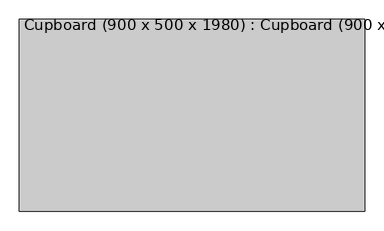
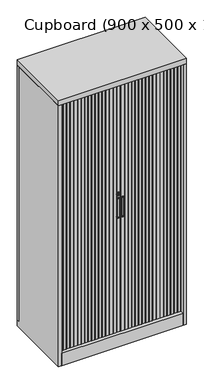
"""IFC4 building model written with IfcOpenShell, lengths in millimetres: furniture geometry, Cupboard (900 x 500 x 1980) : Cupboard (900 x 500 x 1980)."""

from ifc_helpers import new_model, si_unit, point, frame, frame_2d, origin, origin_with_axes, place, context, project, spatial, polyline, circle_curve, ellipse_curve, trimmed, segment, composite_curve, outline, extrude, faceted_brep, source, transform, mapped, element, save
from ifc_brep_helpers import plane_surface, cylinder_surface, revolved_surface, advanced_brep


def cupboard_900_x_500_x_1980_cupboard_900_x_500_x_1980_3b477151(model_context):
    return source(origin(), model_context, "Body", "SolidModel", [
        advanced_brep(
        [(26.5273848, -229.0, 951.9022034), (26.5273848, -229.0, 1078.0527572), (4.5273848, -229.0, 1078.0527572), (4.5273848, -229.0, 951.9022034), (6.5273848, -229.0, 952.046184), (6.5273848, -229.0, 1078.0415606), (24.5273848, -229.0, 1078.0415606), (24.5273848, -229.0, 952.046184), (3.5273848, -228.0, 951.9022034), (3.5273848, -226.0, 951.9022034), (27.5273848, -226.0, 951.9022034), (27.5273848, -228.0, 951.9022034), (27.5273848, -220.0, 951.9022034), (27.5273848, -220.0, 1078.0527572), (27.5273848, -226.0, 1078.0527572), (27.5273848, -228.0, 1078.0527572), (3.5273848, -226.0, 1078.0527572), (3.5273848, -228.0, 1078.0527572), (3.5273848, -220.0, 1078.0527572), (3.5273848, -220.0, 951.9022034), (7.5273848, -228.0, 1078.0415606), (7.5273848, -226.0, 1078.0415606), (23.5273848, -226.0, 1078.0415606), (23.5273848, -228.0, 1078.0415606), (23.5273848, -226.0, 952.046184), (23.5273848, -228.0, 952.046184), (7.5273848, -226.0, 952.046184), (7.5273848, -228.0, 952.046184)],
        [
            (0, 1),
            (1, 2, circle_curve(frame((15.5273848, -229.0, 1078.0527572), z_axis=(0.0, -1.0, 0.0), x_axis=(-1.0, 0.0, 0.0)), 11.0)),
            (2, 3),
            (3, 0, circle_curve(frame((15.5273848, -229.0, 951.9022034), z_axis=(0.0, -1.0, 0.0), x_axis=(1.0, 0.0, 0.0)), 11.0)),
            (4, 5),
            (5, 6, circle_curve(frame((15.5273848, -229.0, 1078.0415606), z_axis=(0.0, 1.0, 0.0), x_axis=(1.0, 0.0, 0.0)), 9.0)),
            (6, 7),
            (7, 4, circle_curve(frame((15.5273848, -229.0, 952.046184), z_axis=(0.0, 1.0, 0.0), x_axis=(-1.0, 0.0, 0.0)), 9.0)),
            (8, 9),
            (9, 10, circle_curve(frame((15.5273848, -226.0, 951.9022034), z_axis=(0.0, -1.0, 0.0), x_axis=(1.0, 0.0, 0.0)), 12.0)),
            (10, 11),
            (11, 8, circle_curve(frame((15.5273848, -228.0, 951.9022034), z_axis=(0.0, 1.0, 0.0), x_axis=(1.0, 0.0, 0.0)), 12.0)),
            (10, 12),
            (12, 13),
            (13, 14),
            (14, 15),
            (15, 11),
            (14, 16, circle_curve(frame((15.5273848, -226.0, 1078.0527572), z_axis=(0.0, -1.0, 0.0), x_axis=(1.0, 0.0, 0.0)), 12.0)),
            (16, 17),
            (17, 15, circle_curve(frame((15.5273848, -228.0, 1078.0527572), z_axis=(0.0, 1.0, 0.0), x_axis=(1.0, 0.0, 0.0)), 12.0)),
            (8, 17),
            (16, 18),
            (18, 19),
            (19, 9),
            (20, 21),
            (21, 22, circle_curve(frame((15.5273848, -226.0, 1078.0415606), z_axis=(0.0, 1.0, 0.0), x_axis=(1.0, 0.0, 0.0)), 8.0)),
            (22, 23),
            (23, 20, circle_curve(frame((15.5273848, -228.0, 1078.0415606), z_axis=(0.0, -1.0, 0.0), x_axis=(1.0, 0.0, 0.0)), 8.0)),
            (22, 24),
            (24, 25),
            (25, 23),
            (24, 26, circle_curve(frame((15.5273848, -226.0, 952.046184), z_axis=(0.0, 1.0, 0.0), x_axis=(1.0, 0.0, 0.0)), 8.0)),
            (26, 27),
            (27, 25, circle_curve(frame((15.5273848, -228.0, 952.046184), z_axis=(0.0, -1.0, 0.0), x_axis=(1.0, 0.0, 0.0)), 8.0)),
            (20, 27),
            (26, 21),
            (4, 27, circle_curve(frame((6.5273848, -228.0, 952.046184), z_axis=(0.0, 0.0, 1.0), x_axis=(-1.0, 0.0, 0.0)), 1.0)),
            (20, 5, circle_curve(frame((6.5273848, -228.0, 1078.0415606), z_axis=(0.0, 0.0, -1.0), x_axis=(-1.0, 0.0, 0.0)), 1.0)),
            (7, 25, circle_curve(frame((24.5273848, -228.0, 952.046184), z_axis=(0.0, 0.0, -1.0), x_axis=(1.0, 0.0, 0.0)), 1.0)),
            (6, 23, circle_curve(frame((24.5273848, -228.0, 1078.0415606), z_axis=(0.0, 0.0, -1.0), x_axis=(1.0, 0.0, 0.0)), 1.0)),
            (0, 11, circle_curve(frame((26.5273848, -228.0, 951.9022034), z_axis=(0.0, 0.0, 1.0), x_axis=(1.0, 0.0, 0.0)), 1.0)),
            (15, 1, circle_curve(frame((26.5273848, -228.0, 1078.0527572), z_axis=(0.0, 0.0, -1.0), x_axis=(1.0, 0.0, 0.0)), 1.0)),
            (3, 8, circle_curve(frame((4.5273848, -228.0, 951.9022034), z_axis=(0.0, 0.0, -1.0), x_axis=(-1.0, 0.0, 0.0)), 1.0)),
            (2, 17, circle_curve(frame((4.5273848, -228.0, 1078.0527572), z_axis=(0.0, 0.0, -1.0), x_axis=(-1.0, 0.0, 0.0)), 1.0)),
            (18, 13, circle_curve(frame((15.5273848, -220.0, 1078.0527572), z_axis=(0.0, 1.0, 0.0), x_axis=(1.0, 0.0, 0.0)), 12.0)),
            (12, 19, circle_curve(frame((15.5273848, -220.0, 951.9022034), z_axis=(0.0, 1.0, 0.0), x_axis=(1.0, 0.0, 0.0)), 12.0)),
        ],
        [
            plane_surface(frame((27.5273848, -229.0, 951.9022034), z_axis=(0.0, -1.0, 0.0), x_axis=(0.0, 0.0, 1.0))),
            cylinder_surface(frame((15.5273848, -226.0, 951.9022034), z_axis=(0.0, -1.0, 0.0), x_axis=(1.0, 0.0, 0.0)), 12.0),
            plane_surface(frame((27.5273848, -229.0, 951.9022034), z_axis=(1.0, 0.0, 0.0), x_axis=(0.0, 1.0, 0.0))),
            cylinder_surface(frame((15.5273848, -226.0, 1078.0527572), z_axis=(0.0, -1.0, 0.0), x_axis=(1.0, 0.0, 0.0)), 12.0),
            plane_surface(frame((3.5273848, -229.0, 1078.0527572), z_axis=(-1.0, 0.0, 0.0), x_axis=(0.0, 1.0, 0.0))),
            revolved_surface(polyline([(23.5273848, -226.0, 1078.0415606), (23.5273848, -228.0, 1078.0415606)]), (15.5273848, -229.0, 1078.0415606), (0.0, 1.0, 0.0)),
            plane_surface(frame((23.5273848, -229.0, 1078.0415606), z_axis=(-1.0, 0.0, 0.0), x_axis=(0.0, 1.0, 0.0))),
            revolved_surface(polyline([(23.5273848, -226.0, 952.046184), (23.5273848, -228.0, 952.046184)]), (15.5273848, -229.0, 952.046184), (0.0, 1.0, 0.0)),
            plane_surface(frame((7.5273848, -229.0, 952.046184), z_axis=(1.0, 0.0, 0.0), x_axis=(0.0, 1.0, 0.0))),
            cylinder_surface(frame((6.5273848, -228.0, 1078.0415606), z_axis=(0.0, 0.0, -1.0), x_axis=(-1.0, 0.0, 0.0)), 1.0),
            revolved_surface(trimmed(ellipse_curve(frame((6.5273848, -228.0, 952.046184), z_axis=(0.0, 0.0, 1.0), x_axis=(-1.0, 0.0, 0.0)), 1.0, 1.0), [point((6.5273848, -229.0, 952.046184))], [point((7.5273848, -228.0, 952.046184))], True, "CARTESIAN"), (15.5273848, -229.0, 952.046184), (0.0, -1.0, 0.0)),
            cylinder_surface(frame((24.5273848, -228.0, 952.046184), z_axis=(0.0, 0.0, 1.0), x_axis=(1.0, 0.0, 0.0)), 1.0),
            revolved_surface(trimmed(ellipse_curve(frame((24.5273848, -228.0, 1078.0415606), z_axis=(0.0, 0.0, -1.0), x_axis=(1.0, 0.0, 0.0)), 1.0, 1.0), [point((24.5273848, -229.0, 1078.0415606))], [point((23.5273848, -228.0, 1078.0415606))], True, "CARTESIAN"), (15.5273848, -229.0, 1078.0415606), (0.0, -1.0, 0.0)),
            cylinder_surface(frame((26.5273848, -228.0, 1078.0527572), z_axis=(0.0, 0.0, -1.0), x_axis=(1.0, 0.0, 0.0)), 1.0),
            revolved_surface(trimmed(ellipse_curve(frame((26.5273848, -228.0, 951.9022034), z_axis=(0.0, 0.0, 1.0), x_axis=(1.0, 0.0, 0.0)), 1.0, 1.0), [point((26.5273848, -229.0, 951.9022034))], [point((27.5273848, -228.0, 951.9022034))], True, "CARTESIAN"), (15.5273848, -229.0, 951.9022034), (0.0, 1.0, 0.0)),
            cylinder_surface(frame((4.5273848, -228.0, 951.9022034), z_axis=(0.0, 0.0, 1.0), x_axis=(-1.0, 0.0, 0.0)), 1.0),
            revolved_surface(trimmed(ellipse_curve(frame((4.5273848, -228.0, 1078.0527572), z_axis=(0.0, 0.0, -1.0), x_axis=(-1.0, 0.0, 0.0)), 1.0, 1.0), [point((4.5273848, -229.0, 1078.0527572))], [point((3.5273848, -228.0, 1078.0527572))], True, "CARTESIAN"), (15.5273848, -229.0, 1078.0527572), (0.0, 1.0, 0.0)),
            plane_surface(frame((27.5273848, -226.0, 951.9022034), z_axis=(0.0, -1.0, 0.0), x_axis=(0.0, 0.0, 1.0))),
            plane_surface(frame((27.5273848, -220.0, 951.9022034), z_axis=(0.0, 1.0, 0.0), x_axis=(0.0, 0.0, -1.0))),
            cylinder_surface(frame((15.5273848, -220.0, 951.9022034), z_axis=(0.0, -1.0, 0.0), x_axis=(1.0, 0.0, 0.0)), 12.0),
            cylinder_surface(frame((15.5273848, -220.0, 1078.0527572), z_axis=(0.0, -1.0, 0.0), x_axis=(1.0, 0.0, 0.0)), 12.0),
        ],
        [
            (0, [[1, 2, 3, 4], [5, 6, 7, 8]]),
            (1, [[9, 10, 11, 12]]),
            (2, [[-11, 13, 14, 15, 16, 17]]),
            (3, [[-16, 18, 19, 20]]),
            (4, [[-9, 21, -19, 22, 23, 24]]),
            (5, [[25, 26, 27, 28]]),
            (6, [[-27, 29, 30, 31]]),
            (7, [[-30, 32, 33, 34]]),
            (8, [[-25, 35, -33, 36]]),
            (9, [[37, -35, 38, -5]]),
            (10, [[-37, -8, 39, -34]]),
            (11, [[-39, -7, 40, -31]]),
            (12, [[-38, -28, -40, -6]]),
            (13, [[41, -17, 42, -1]]),
            (14, [[-41, -4, 43, -12]]),
            (15, [[-43, -3, 44, -21]]),
            (16, [[-42, -20, -44, -2]]),
            (17, [[-26, -36, -32, -29]]),
            (18, [[-23, 45, -14, 46]]),
            (19, [[-46, -13, -10, -24]]),
            (20, [[-45, -22, -18, -15]]),
        ],
    ),
        advanced_brep(
        [(-26.8154748, -229.0, 1119.9505671), (-3.7101479, -229.0, 1119.9505671), (-14.2354266, -229.0, 1126.0185691), (-14.2354266, -229.0, 1114.0185691), (-16.2354266, -229.0, 1114.0185691), (-16.2354266, -229.0, 1126.0185691), (-27.8154748, -220.0, 1119.9505671), (-2.7101479, -220.0, 1119.9505671), (-14.2354266, -220.0, 1126.0185691), (-16.2354266, -220.0, 1126.0185691), (-16.2354266, -220.0, 1114.0185691), (-14.2354266, -220.0, 1114.0185691), (-2.7101479, -228.0, 1119.9505671), (-27.8154748, -228.0, 1119.9505671)],
        [
            (0, 1, circle_curve(frame((-15.2628114, -229.0, 1119.9505671), z_axis=(0.0, -1.0, 0.0), x_axis=(1.0, 0.0, 0.0)), 11.5526635)),
            (1, 0, circle_curve(frame((-15.2628114, -229.0, 1119.9505671), z_axis=(0.0, -1.0, 0.0), x_axis=(-1.0, 0.0, 0.0)), 11.5526635)),
            (2, 3),
            (3, 4),
            (4, 5),
            (5, 2),
            (6, 7, circle_curve(frame((-15.2628114, -220.0, 1119.9505671), z_axis=(0.0, 1.0, 0.0), x_axis=(1.0, 0.0, 0.0)), 12.5526635)),
            (7, 6, circle_curve(frame((-15.2628114, -220.0, 1119.9505671), z_axis=(0.0, 1.0, 0.0), x_axis=(1.0, 0.0, 0.0)), 12.5526635)),
            (8, 9),
            (9, 10),
            (10, 11),
            (11, 8),
            (7, 12),
            (12, 13, circle_curve(frame((-15.2628114, -228.0, 1119.9505671), z_axis=(0.0, 1.0, 0.0), x_axis=(1.0, 0.0, 0.0)), 12.5526635)),
            (13, 6),
            (13, 12, circle_curve(frame((-15.2628114, -228.0, 1119.9505671), z_axis=(0.0, 1.0, 0.0), x_axis=(1.0, 0.0, 0.0)), 12.5526635)),
            (2, 8),
            (11, 3),
            (10, 4),
            (9, 5),
            (0, 13, circle_curve(frame((-26.8154748, -228.0, 1119.9505671), z_axis=(0.0, 0.0, -1.0), x_axis=(-1.0, 0.0, 0.0)), 1.0)),
            (12, 1, circle_curve(frame((-3.7101479, -228.0, 1119.9505671), z_axis=(0.0, 0.0, -1.0), x_axis=(1.0, 0.0, 0.0)), 1.0)),
        ],
        [
            plane_surface(frame((-2.7101479, -229.0, 1119.9505671), z_axis=(0.0, -1.0, 0.0), x_axis=(0.0, 0.0, 1.0))),
            plane_surface(frame((-2.7101479, -220.0, 1119.9505671), z_axis=(0.0, 1.0, 0.0), x_axis=(0.0, 0.0, -1.0))),
            cylinder_surface(frame((-15.2628114, -220.0, 1119.9505671), z_axis=(0.0, -1.0, 0.0), x_axis=(1.0, 0.0, 0.0)), 12.5526635),
            plane_surface(frame((-14.2354266, -229.0, 1126.0185691), z_axis=(-1.0, 0.0, 0.0), x_axis=(0.0, 1.0, 0.0))),
            plane_surface(frame((-14.2354266, -229.0, 1114.0185691), z_axis=(0.0, 0.0, 1.0), x_axis=(0.0, 1.0, 0.0))),
            plane_surface(frame((-16.2354266, -229.0, 1114.0185691), z_axis=(1.0, 0.0, 0.0), x_axis=(0.0, 1.0, 0.0))),
            plane_surface(frame((-16.2354266, -229.0, 1126.0185691), z_axis=(0.0, 0.0, -1.0), x_axis=(0.0, 1.0, 0.0))),
            revolved_surface(trimmed(ellipse_curve(frame((-3.7101479, -228.0, 1119.9505671), z_axis=(0.0, 0.0, 1.0), x_axis=(1.0, 0.0, 0.0)), 1.0, 1.0), [point((-3.7101479, -229.0, 1119.9505671))], [point((-2.7101479, -228.0, 1119.9505671))], True, "CARTESIAN"), (-15.2628114, -229.0, 1119.9505671), (0.0, 1.0, 0.0)),
            revolved_surface(trimmed(ellipse_curve(frame((-26.8154748, -228.0, 1119.9505671), z_axis=(0.0, 0.0, -1.0), x_axis=(-1.0, 0.0, 0.0)), 1.0, 1.0), [point((-26.8154748, -229.0, 1119.9505671))], [point((-27.8154748, -228.0, 1119.9505671))], True, "CARTESIAN"), (-15.2628114, -229.0, 1119.9505671), (0.0, 1.0, 0.0)),
        ],
        [
            (0, [[1, 2], [3, 4, 5, 6]]),
            (1, [[7, 8], [9, 10, 11, 12]]),
            (2, [[-8, 13, 14, 15]]),
            (2, [[-7, -15, 16, -13]]),
            (3, [[-3, 17, -12, 18]]),
            (4, [[-4, -18, -11, 19]]),
            (5, [[-5, -19, -10, 20]]),
            (6, [[-6, -20, -9, -17]]),
            (7, [[21, -14, 22, -1]]),
            (8, [[-21, -2, -22, -16]]),
        ],
    ),
        advanced_brep(
        [(-4.2354266, -229.0, 951.9022034), (-4.2354266, -229.0, 1078.0527572), (-26.2354266, -229.0, 1078.0527572), (-26.2354266, -229.0, 951.9022034), (-24.2354266, -229.0, 952.046184), (-24.2354266, -229.0, 1078.0415606), (-6.2354266, -229.0, 1078.0415606), (-6.2354266, -229.0, 952.046184), (-27.2354266, -228.0, 951.9022034), (-27.2354266, -226.0, 951.9022034), (-3.2354266, -226.0, 951.9022034), (-3.2354266, -228.0, 951.9022034), (-3.2354266, -220.0, 951.9022034), (-3.2354266, -220.0, 1078.0527572), (-3.2354266, -226.0, 1078.0527572), (-3.2354266, -228.0, 1078.0527572), (-27.2354266, -226.0, 1078.0527572), (-27.2354266, -228.0, 1078.0527572), (-27.2354266, -220.0, 1078.0527572), (-27.2354266, -220.0, 951.9022034), (-23.2354266, -228.0, 1078.0415606), (-23.2354266, -226.0, 1078.0415606), (-7.2354266, -226.0, 1078.0415606), (-7.2354266, -228.0, 1078.0415606), (-7.2354266, -226.0, 952.046184), (-7.2354266, -228.0, 952.046184), (-23.2354266, -226.0, 952.046184), (-23.2354266, -228.0, 952.046184)],
        [
            (0, 1),
            (1, 2, circle_curve(frame((-15.2354266, -229.0, 1078.0527572), z_axis=(0.0, -1.0, 0.0), x_axis=(-1.0, 0.0, 0.0)), 11.0)),
            (2, 3),
            (3, 0, circle_curve(frame((-15.2354266, -229.0, 951.9022034), z_axis=(0.0, -1.0, 0.0), x_axis=(1.0, 0.0, 0.0)), 11.0)),
            (4, 5),
            (5, 6, circle_curve(frame((-15.2354266, -229.0, 1078.0415606), z_axis=(0.0, 1.0, 0.0), x_axis=(1.0, 0.0, 0.0)), 9.0)),
            (6, 7),
            (7, 4, circle_curve(frame((-15.2354266, -229.0, 952.046184), z_axis=(0.0, 1.0, 0.0), x_axis=(-1.0, 0.0, 0.0)), 9.0)),
            (8, 9),
            (9, 10, circle_curve(frame((-15.2354266, -226.0, 951.9022034), z_axis=(0.0, -1.0, 0.0), x_axis=(1.0, 0.0, 0.0)), 12.0)),
            (10, 11),
            (11, 8, circle_curve(frame((-15.2354266, -228.0, 951.9022034), z_axis=(0.0, 1.0, 0.0), x_axis=(1.0, 0.0, 0.0)), 12.0)),
            (10, 12),
            (12, 13),
            (13, 14),
            (14, 15),
            (15, 11),
            (14, 16, circle_curve(frame((-15.2354266, -226.0, 1078.0527572), z_axis=(0.0, -1.0, 0.0), x_axis=(1.0, 0.0, 0.0)), 12.0)),
            (16, 17),
            (17, 15, circle_curve(frame((-15.2354266, -228.0, 1078.0527572), z_axis=(0.0, 1.0, 0.0), x_axis=(1.0, 0.0, 0.0)), 12.0)),
            (8, 17),
            (16, 18),
            (18, 19),
            (19, 9),
            (20, 21),
            (21, 22, circle_curve(frame((-15.2354266, -226.0, 1078.0415606), z_axis=(0.0, 1.0, 0.0), x_axis=(1.0, 0.0, 0.0)), 8.0)),
            (22, 23),
            (23, 20, circle_curve(frame((-15.2354266, -228.0, 1078.0415606), z_axis=(0.0, -1.0, 0.0), x_axis=(1.0, 0.0, 0.0)), 8.0)),
            (22, 24),
            (24, 25),
            (25, 23),
            (24, 26, circle_curve(frame((-15.2354266, -226.0, 952.046184), z_axis=(0.0, 1.0, 0.0), x_axis=(1.0, 0.0, 0.0)), 8.0)),
            (26, 27),
            (27, 25, circle_curve(frame((-15.2354266, -228.0, 952.046184), z_axis=(0.0, -1.0, 0.0), x_axis=(1.0, 0.0, 0.0)), 8.0)),
            (20, 27),
            (26, 21),
            (4, 27, circle_curve(frame((-24.2354266, -228.0, 952.046184), z_axis=(0.0, 0.0, 1.0), x_axis=(-1.0, 0.0, 0.0)), 1.0)),
            (20, 5, circle_curve(frame((-24.2354266, -228.0, 1078.0415606), z_axis=(0.0, 0.0, -1.0), x_axis=(-1.0, 0.0, 0.0)), 1.0)),
            (7, 25, circle_curve(frame((-6.2354266, -228.0, 952.046184), z_axis=(0.0, 0.0, -1.0), x_axis=(1.0, 0.0, 0.0)), 1.0)),
            (6, 23, circle_curve(frame((-6.2354266, -228.0, 1078.0415606), z_axis=(0.0, 0.0, -1.0), x_axis=(1.0, 0.0, 0.0)), 1.0)),
            (0, 11, circle_curve(frame((-4.2354266, -228.0, 951.9022034), z_axis=(0.0, 0.0, 1.0), x_axis=(1.0, 0.0, 0.0)), 1.0)),
            (15, 1, circle_curve(frame((-4.2354266, -228.0, 1078.0527572), z_axis=(0.0, 0.0, -1.0), x_axis=(1.0, 0.0, 0.0)), 1.0)),
            (3, 8, circle_curve(frame((-26.2354266, -228.0, 951.9022034), z_axis=(0.0, 0.0, -1.0), x_axis=(-1.0, 0.0, 0.0)), 1.0)),
            (2, 17, circle_curve(frame((-26.2354266, -228.0, 1078.0527572), z_axis=(0.0, 0.0, -1.0), x_axis=(-1.0, 0.0, 0.0)), 1.0)),
            (18, 13, circle_curve(frame((-15.2354266, -220.0, 1078.0527572), z_axis=(0.0, 1.0, 0.0), x_axis=(1.0, 0.0, 0.0)), 12.0)),
            (12, 19, circle_curve(frame((-15.2354266, -220.0, 951.9022034), z_axis=(0.0, 1.0, 0.0), x_axis=(1.0, 0.0, 0.0)), 12.0)),
        ],
        [
            plane_surface(frame((-3.2354266, -229.0, 951.9022034), z_axis=(0.0, -1.0, 0.0), x_axis=(0.0, 0.0, 1.0))),
            cylinder_surface(frame((-15.2354266, -226.0, 951.9022034), z_axis=(0.0, -1.0, 0.0), x_axis=(1.0, 0.0, 0.0)), 12.0),
            plane_surface(frame((-3.2354266, -229.0, 951.9022034), z_axis=(1.0, 0.0, 0.0), x_axis=(0.0, 1.0, 0.0))),
            cylinder_surface(frame((-15.2354266, -226.0, 1078.0527572), z_axis=(0.0, -1.0, 0.0), x_axis=(1.0, 0.0, 0.0)), 12.0),
            plane_surface(frame((-27.2354266, -229.0, 1078.0527572), z_axis=(-1.0, 0.0, 0.0), x_axis=(0.0, 1.0, 0.0))),
            revolved_surface(polyline([(-7.2354266, -226.0, 1078.0415606), (-7.2354266, -228.0, 1078.0415606)]), (-15.2354266, -229.0, 1078.0415606), (0.0, 1.0, 0.0)),
            plane_surface(frame((-7.2354266, -229.0, 1078.0415606), z_axis=(-1.0, 0.0, 0.0), x_axis=(0.0, 1.0, 0.0))),
            revolved_surface(polyline([(-7.2354266, -226.0, 952.046184), (-7.2354266, -228.0, 952.046184)]), (-15.2354266, -229.0, 952.046184), (0.0, 1.0, 0.0)),
            plane_surface(frame((-23.2354266, -229.0, 952.046184), z_axis=(1.0, 0.0, 0.0), x_axis=(0.0, 1.0, 0.0))),
            cylinder_surface(frame((-24.2354266, -228.0, 1078.0415606), z_axis=(0.0, 0.0, -1.0), x_axis=(-1.0, 0.0, 0.0)), 1.0),
            revolved_surface(trimmed(ellipse_curve(frame((-24.2354266, -228.0, 952.046184), z_axis=(0.0, 0.0, 1.0), x_axis=(-1.0, 0.0, 0.0)), 1.0, 1.0), [point((-24.2354266, -229.0, 952.046184))], [point((-23.2354266, -228.0, 952.046184))], True, "CARTESIAN"), (-15.2354266, -229.0, 952.046184), (0.0, -1.0, 0.0)),
            cylinder_surface(frame((-6.2354266, -228.0, 952.046184), z_axis=(0.0, 0.0, 1.0), x_axis=(1.0, 0.0, 0.0)), 1.0),
            revolved_surface(trimmed(ellipse_curve(frame((-6.2354266, -228.0, 1078.0415606), z_axis=(0.0, 0.0, -1.0), x_axis=(1.0, 0.0, 0.0)), 1.0, 1.0), [point((-6.2354266, -229.0, 1078.0415606))], [point((-7.2354266, -228.0, 1078.0415606))], True, "CARTESIAN"), (-15.2354266, -229.0, 1078.0415606), (0.0, -1.0, 0.0)),
            cylinder_surface(frame((-4.2354266, -228.0, 1078.0527572), z_axis=(0.0, 0.0, -1.0), x_axis=(1.0, 0.0, 0.0)), 1.0),
            revolved_surface(trimmed(ellipse_curve(frame((-4.2354266, -228.0, 951.9022034), z_axis=(0.0, 0.0, 1.0), x_axis=(1.0, 0.0, 0.0)), 1.0, 1.0), [point((-4.2354266, -229.0, 951.9022034))], [point((-3.2354266, -228.0, 951.9022034))], True, "CARTESIAN"), (-15.2354266, -229.0, 951.9022034), (0.0, 1.0, 0.0)),
            cylinder_surface(frame((-26.2354266, -228.0, 951.9022034), z_axis=(0.0, 0.0, 1.0), x_axis=(-1.0, 0.0, 0.0)), 1.0),
            revolved_surface(trimmed(ellipse_curve(frame((-26.2354266, -228.0, 1078.0527572), z_axis=(0.0, 0.0, -1.0), x_axis=(-1.0, 0.0, 0.0)), 1.0, 1.0), [point((-26.2354266, -229.0, 1078.0527572))], [point((-27.2354266, -228.0, 1078.0527572))], True, "CARTESIAN"), (-15.2354266, -229.0, 1078.0527572), (0.0, 1.0, 0.0)),
            plane_surface(frame((-3.2354266, -226.0, 951.9022034), z_axis=(0.0, -1.0, 0.0), x_axis=(0.0, 0.0, 1.0))),
            plane_surface(frame((-3.2354266, -220.0, 951.9022034), z_axis=(0.0, 1.0, 0.0), x_axis=(0.0, 0.0, -1.0))),
            cylinder_surface(frame((-15.2354266, -220.0, 951.9022034), z_axis=(0.0, -1.0, 0.0), x_axis=(1.0, 0.0, 0.0)), 12.0),
            cylinder_surface(frame((-15.2354266, -220.0, 1078.0527572), z_axis=(0.0, -1.0, 0.0), x_axis=(1.0, 0.0, 0.0)), 12.0),
        ],
        [
            (0, [[1, 2, 3, 4], [5, 6, 7, 8]]),
            (1, [[9, 10, 11, 12]]),
            (2, [[-11, 13, 14, 15, 16, 17]]),
            (3, [[-16, 18, 19, 20]]),
            (4, [[-9, 21, -19, 22, 23, 24]]),
            (5, [[25, 26, 27, 28]]),
            (6, [[-27, 29, 30, 31]]),
            (7, [[-30, 32, 33, 34]]),
            (8, [[-25, 35, -33, 36]]),
            (9, [[37, -35, 38, -5]]),
            (10, [[-37, -8, 39, -34]]),
            (11, [[-39, -7, 40, -31]]),
            (12, [[-38, -28, -40, -6]]),
            (13, [[41, -17, 42, -1]]),
            (14, [[-41, -4, 43, -12]]),
            (15, [[-43, -3, 44, -21]]),
            (16, [[-42, -20, -44, -2]]),
            (17, [[-26, -36, -32, -29]]),
            (18, [[-23, 45, -14, 46]]),
            (19, [[-46, -13, -10, -24]]),
            (20, [[-45, -22, -18, -15]]),
        ],
    ),
        extrude(outline(composite_curve([segment(polyline([(3.0, -220.0), (28.0, -220.0), (28.0, -223.0)]), True, "CONTINUOUS"), segment(trimmed(circle_curve(frame_2d((26.0, -223.0)), 2.0), [point((28.0, -223.0))], [point((26.0, -225.0))], False, "CARTESIAN"), True, "CONTINUOUS"), segment(polyline([(26.0, -225.0), (5.0, -225.0)]), True, "CONTINUOUS"), segment(trimmed(circle_curve(frame_2d((5.0, -223.0)), 2.0), [point((5.0, -225.0))], [point((3.0, -223.0))], False, "CARTESIAN"), True, "CONTINUOUS"), segment(polyline([(3.0, -223.0), (3.0, -220.0)]), True, "CONTINUOUS")], self_intersect=False)), frame((0.0, 0.0, 90.0), z_axis=(0.0, 0.0, 1.0), x_axis=(1.0, 0.0, 0.0)), (0.0, 0.0, 1.0), 1849.5),
        extrude(outline(composite_curve([segment(polyline([(28.0, -220.0), (53.0, -220.0), (53.0, -223.0)]), True, "CONTINUOUS"), segment(trimmed(circle_curve(frame_2d((51.0, -223.0)), 2.0), [point((53.0, -223.0))], [point((51.0, -225.0))], False, "CARTESIAN"), True, "CONTINUOUS"), segment(polyline([(51.0, -225.0), (30.0, -225.0)]), True, "CONTINUOUS"), segment(trimmed(circle_curve(frame_2d((30.0, -223.0)), 2.0), [point((30.0, -225.0))], [point((28.0, -223.0))], False, "CARTESIAN"), True, "CONTINUOUS"), segment(polyline([(28.0, -223.0), (28.0, -220.0)]), True, "CONTINUOUS")], self_intersect=False)), frame((0.0, 0.0, 90.0), z_axis=(0.0, 0.0, 1.0), x_axis=(1.0, 0.0, 0.0)), (0.0, 0.0, 1.0), 1849.5),
        extrude(outline(composite_curve([segment(polyline([(53.0, -220.0), (78.0, -220.0), (78.0, -223.0)]), True, "CONTINUOUS"), segment(trimmed(circle_curve(frame_2d((76.0, -223.0)), 2.0), [point((78.0, -223.0))], [point((76.0, -225.0))], False, "CARTESIAN"), True, "CONTINUOUS"), segment(polyline([(76.0, -225.0), (55.0, -225.0)]), True, "CONTINUOUS"), segment(trimmed(circle_curve(frame_2d((55.0, -223.0)), 2.0), [point((55.0, -225.0))], [point((53.0, -223.0))], False, "CARTESIAN"), True, "CONTINUOUS"), segment(polyline([(53.0, -223.0), (53.0, -220.0)]), True, "CONTINUOUS")], self_intersect=False)), frame((0.0, 0.0, 90.0), z_axis=(0.0, 0.0, 1.0), x_axis=(1.0, 0.0, 0.0)), (0.0, 0.0, 1.0), 1849.5),
        extrude(outline(composite_curve([segment(polyline([(78.0, -220.0), (103.0, -220.0), (103.0, -223.0)]), True, "CONTINUOUS"), segment(trimmed(circle_curve(frame_2d((101.0, -223.0)), 2.0), [point((103.0, -223.0))], [point((101.0, -225.0))], False, "CARTESIAN"), True, "CONTINUOUS"), segment(polyline([(101.0, -225.0), (80.0, -225.0)]), True, "CONTINUOUS"), segment(trimmed(circle_curve(frame_2d((80.0, -223.0)), 2.0), [point((80.0, -225.0))], [point((78.0, -223.0))], False, "CARTESIAN"), True, "CONTINUOUS"), segment(polyline([(78.0, -223.0), (78.0, -220.0)]), True, "CONTINUOUS")], self_intersect=False)), frame((0.0, 0.0, 90.0), z_axis=(0.0, 0.0, 1.0), x_axis=(1.0, 0.0, 0.0)), (0.0, 0.0, 1.0), 1849.5),
        extrude(outline(composite_curve([segment(polyline([(103.0, -220.0), (128.0, -220.0), (128.0, -223.0)]), True, "CONTINUOUS"), segment(trimmed(circle_curve(frame_2d((126.0, -223.0)), 2.0), [point((128.0, -223.0))], [point((126.0, -225.0))], False, "CARTESIAN"), True, "CONTINUOUS"), segment(polyline([(126.0, -225.0), (105.0, -225.0)]), True, "CONTINUOUS"), segment(trimmed(circle_curve(frame_2d((105.0, -223.0)), 2.0), [point((105.0, -225.0))], [point((103.0, -223.0))], False, "CARTESIAN"), True, "CONTINUOUS"), segment(polyline([(103.0, -223.0), (103.0, -220.0)]), True, "CONTINUOUS")], self_intersect=False)), frame((0.0, 0.0, 90.0), z_axis=(0.0, 0.0, 1.0), x_axis=(1.0, 0.0, 0.0)), (0.0, 0.0, 1.0), 1849.5),
        extrude(outline(composite_curve([segment(polyline([(128.0, -220.0), (153.0, -220.0), (153.0, -223.0)]), True, "CONTINUOUS"), segment(trimmed(circle_curve(frame_2d((151.0, -223.0)), 2.0), [point((153.0, -223.0))], [point((151.0, -225.0))], False, "CARTESIAN"), True, "CONTINUOUS"), segment(polyline([(151.0, -225.0), (130.0, -225.0)]), True, "CONTINUOUS"), segment(trimmed(circle_curve(frame_2d((130.0, -223.0)), 2.0), [point((130.0, -225.0))], [point((128.0, -223.0))], False, "CARTESIAN"), True, "CONTINUOUS"), segment(polyline([(128.0, -223.0), (128.0, -220.0)]), True, "CONTINUOUS")], self_intersect=False)), frame((0.0, 0.0, 90.0), z_axis=(0.0, 0.0, 1.0), x_axis=(1.0, 0.0, 0.0)), (0.0, 0.0, 1.0), 1849.5),
        extrude(outline(composite_curve([segment(polyline([(153.0, -220.0), (178.0, -220.0), (178.0, -223.0)]), True, "CONTINUOUS"), segment(trimmed(circle_curve(frame_2d((176.0, -223.0)), 2.0), [point((178.0, -223.0))], [point((176.0, -225.0))], False, "CARTESIAN"), True, "CONTINUOUS"), segment(polyline([(176.0, -225.0), (155.0, -225.0)]), True, "CONTINUOUS"), segment(trimmed(circle_curve(frame_2d((155.0, -223.0)), 2.0), [point((155.0, -225.0))], [point((153.0, -223.0))], False, "CARTESIAN"), True, "CONTINUOUS"), segment(polyline([(153.0, -223.0), (153.0, -220.0)]), True, "CONTINUOUS")], self_intersect=False)), frame((0.0, 0.0, 90.0), z_axis=(0.0, 0.0, 1.0), x_axis=(1.0, 0.0, 0.0)), (0.0, 0.0, 1.0), 1849.5),
        extrude(outline(composite_curve([segment(polyline([(178.0, -220.0), (203.0, -220.0), (203.0, -223.0)]), True, "CONTINUOUS"), segment(trimmed(circle_curve(frame_2d((201.0, -223.0)), 2.0), [point((203.0, -223.0))], [point((201.0, -225.0))], False, "CARTESIAN"), True, "CONTINUOUS"), segment(polyline([(201.0, -225.0), (180.0, -225.0)]), True, "CONTINUOUS"), segment(trimmed(circle_curve(frame_2d((180.0, -223.0)), 2.0), [point((180.0, -225.0))], [point((178.0, -223.0))], False, "CARTESIAN"), True, "CONTINUOUS"), segment(polyline([(178.0, -223.0), (178.0, -220.0)]), True, "CONTINUOUS")], self_intersect=False)), frame((0.0, 0.0, 90.0), z_axis=(0.0, 0.0, 1.0), x_axis=(1.0, 0.0, 0.0)), (0.0, 0.0, 1.0), 1849.5),
        extrude(outline(composite_curve([segment(polyline([(203.0, -220.0), (228.0, -220.0), (228.0, -223.0)]), True, "CONTINUOUS"), segment(trimmed(circle_curve(frame_2d((226.0, -223.0)), 2.0), [point((228.0, -223.0))], [point((226.0, -225.0))], False, "CARTESIAN"), True, "CONTINUOUS"), segment(polyline([(226.0, -225.0), (205.0, -225.0)]), True, "CONTINUOUS"), segment(trimmed(circle_curve(frame_2d((205.0, -223.0)), 2.0), [point((205.0, -225.0))], [point((203.0, -223.0))], False, "CARTESIAN"), True, "CONTINUOUS"), segment(polyline([(203.0, -223.0), (203.0, -220.0)]), True, "CONTINUOUS")], self_intersect=False)), frame((0.0, 0.0, 90.0), z_axis=(0.0, 0.0, 1.0), x_axis=(1.0, 0.0, 0.0)), (0.0, 0.0, 1.0), 1849.5),
        extrude(outline(composite_curve([segment(polyline([(228.0, -220.0), (253.0, -220.0), (253.0, -223.0)]), True, "CONTINUOUS"), segment(trimmed(circle_curve(frame_2d((251.0, -223.0)), 2.0), [point((253.0, -223.0))], [point((251.0, -225.0))], False, "CARTESIAN"), True, "CONTINUOUS"), segment(polyline([(251.0, -225.0), (230.0, -225.0)]), True, "CONTINUOUS"), segment(trimmed(circle_curve(frame_2d((230.0, -223.0)), 2.0), [point((230.0, -225.0))], [point((228.0, -223.0))], False, "CARTESIAN"), True, "CONTINUOUS"), segment(polyline([(228.0, -223.0), (228.0, -220.0)]), True, "CONTINUOUS")], self_intersect=False)), frame((0.0, 0.0, 90.0), z_axis=(0.0, 0.0, 1.0), x_axis=(1.0, 0.0, 0.0)), (0.0, 0.0, 1.0), 1849.5),
        extrude(outline(composite_curve([segment(polyline([(253.0, -220.0), (278.0, -220.0), (278.0, -223.0)]), True, "CONTINUOUS"), segment(trimmed(circle_curve(frame_2d((276.0, -223.0)), 2.0), [point((278.0, -223.0))], [point((276.0, -225.0))], False, "CARTESIAN"), True, "CONTINUOUS"), segment(polyline([(276.0, -225.0), (255.0, -225.0)]), True, "CONTINUOUS"), segment(trimmed(circle_curve(frame_2d((255.0, -223.0)), 2.0), [point((255.0, -225.0))], [point((253.0, -223.0))], False, "CARTESIAN"), True, "CONTINUOUS"), segment(polyline([(253.0, -223.0), (253.0, -220.0)]), True, "CONTINUOUS")], self_intersect=False)), frame((0.0, 0.0, 90.0), z_axis=(0.0, 0.0, 1.0), x_axis=(1.0, 0.0, 0.0)), (0.0, 0.0, 1.0), 1849.5),
        extrude(outline(composite_curve([segment(polyline([(278.0, -220.0), (303.0, -220.0), (303.0, -223.0)]), True, "CONTINUOUS"), segment(trimmed(circle_curve(frame_2d((301.0, -223.0)), 2.0), [point((303.0, -223.0))], [point((301.0, -225.0))], False, "CARTESIAN"), True, "CONTINUOUS"), segment(polyline([(301.0, -225.0), (280.0, -225.0)]), True, "CONTINUOUS"), segment(trimmed(circle_curve(frame_2d((280.0, -223.0)), 2.0), [point((280.0, -225.0))], [point((278.0, -223.0))], False, "CARTESIAN"), True, "CONTINUOUS"), segment(polyline([(278.0, -223.0), (278.0, -220.0)]), True, "CONTINUOUS")], self_intersect=False)), frame((0.0, 0.0, 90.0), z_axis=(0.0, 0.0, 1.0), x_axis=(1.0, 0.0, 0.0)), (0.0, 0.0, 1.0), 1849.5),
        extrude(outline(composite_curve([segment(polyline([(303.0, -220.0), (328.0, -220.0), (328.0, -223.0)]), True, "CONTINUOUS"), segment(trimmed(circle_curve(frame_2d((326.0, -223.0)), 2.0), [point((328.0, -223.0))], [point((326.0, -225.0))], False, "CARTESIAN"), True, "CONTINUOUS"), segment(polyline([(326.0, -225.0), (305.0, -225.0)]), True, "CONTINUOUS"), segment(trimmed(circle_curve(frame_2d((305.0, -223.0)), 2.0), [point((305.0, -225.0))], [point((303.0, -223.0))], False, "CARTESIAN"), True, "CONTINUOUS"), segment(polyline([(303.0, -223.0), (303.0, -220.0)]), True, "CONTINUOUS")], self_intersect=False)), frame((0.0, 0.0, 90.0), z_axis=(0.0, 0.0, 1.0), x_axis=(1.0, 0.0, 0.0)), (0.0, 0.0, 1.0), 1849.5),
        extrude(outline(composite_curve([segment(polyline([(328.0, -220.0), (353.0, -220.0), (353.0, -223.0)]), True, "CONTINUOUS"), segment(trimmed(circle_curve(frame_2d((351.0, -223.0)), 2.0), [point((353.0, -223.0))], [point((351.0, -225.0))], False, "CARTESIAN"), True, "CONTINUOUS"), segment(polyline([(351.0, -225.0), (330.0, -225.0)]), True, "CONTINUOUS"), segment(trimmed(circle_curve(frame_2d((330.0, -223.0)), 2.0), [point((330.0, -225.0))], [point((328.0, -223.0))], False, "CARTESIAN"), True, "CONTINUOUS"), segment(polyline([(328.0, -223.0), (328.0, -220.0)]), True, "CONTINUOUS")], self_intersect=False)), frame((0.0, 0.0, 90.0), z_axis=(0.0, 0.0, 1.0), x_axis=(1.0, 0.0, 0.0)), (0.0, 0.0, 1.0), 1849.5),
        extrude(outline(composite_curve([segment(polyline([(353.0, -220.0), (378.0, -220.0), (378.0, -223.0)]), True, "CONTINUOUS"), segment(trimmed(circle_curve(frame_2d((376.0, -223.0)), 2.0), [point((378.0, -223.0))], [point((376.0, -225.0))], False, "CARTESIAN"), True, "CONTINUOUS"), segment(polyline([(376.0, -225.0), (355.0, -225.0)]), True, "CONTINUOUS"), segment(trimmed(circle_curve(frame_2d((355.0, -223.0)), 2.0), [point((355.0, -225.0))], [point((353.0, -223.0))], False, "CARTESIAN"), True, "CONTINUOUS"), segment(polyline([(353.0, -223.0), (353.0, -220.0)]), True, "CONTINUOUS")], self_intersect=False)), frame((0.0, 0.0, 90.0), z_axis=(0.0, 0.0, 1.0), x_axis=(1.0, 0.0, 0.0)), (0.0, 0.0, 1.0), 1849.5),
        extrude(outline(composite_curve([segment(polyline([(378.0, -220.0), (403.0, -220.0), (403.0, -223.0)]), True, "CONTINUOUS"), segment(trimmed(circle_curve(frame_2d((401.0, -223.0)), 2.0), [point((403.0, -223.0))], [point((401.0, -225.0))], False, "CARTESIAN"), True, "CONTINUOUS"), segment(polyline([(401.0, -225.0), (380.0, -225.0)]), True, "CONTINUOUS"), segment(trimmed(circle_curve(frame_2d((380.0, -223.0)), 2.0), [point((380.0, -225.0))], [point((378.0, -223.0))], False, "CARTESIAN"), True, "CONTINUOUS"), segment(polyline([(378.0, -223.0), (378.0, -220.0)]), True, "CONTINUOUS")], self_intersect=False)), frame((0.0, 0.0, 90.0), z_axis=(0.0, 0.0, 1.0), x_axis=(1.0, 0.0, 0.0)), (0.0, 0.0, 1.0), 1849.5),
        extrude(outline(composite_curve([segment(polyline([(403.0, -220.0), (428.0, -220.0), (428.0, -223.0)]), True, "CONTINUOUS"), segment(trimmed(circle_curve(frame_2d((426.0, -223.0)), 2.0), [point((428.0, -223.0))], [point((426.0, -225.0))], False, "CARTESIAN"), True, "CONTINUOUS"), segment(polyline([(426.0, -225.0), (405.0, -225.0)]), True, "CONTINUOUS"), segment(trimmed(circle_curve(frame_2d((405.0, -223.0)), 2.0), [point((405.0, -225.0))], [point((403.0, -223.0))], False, "CARTESIAN"), True, "CONTINUOUS"), segment(polyline([(403.0, -223.0), (403.0, -220.0)]), True, "CONTINUOUS")], self_intersect=False)), frame((0.0, 0.0, 90.0), z_axis=(0.0, 0.0, 1.0), x_axis=(1.0, 0.0, 0.0)), (0.0, 0.0, 1.0), 1849.5),
        extrude(outline(composite_curve([segment(polyline([(3.0, -220.0), (3.0, -223.5)]), True, "CONTINUOUS"), segment(trimmed(circle_curve(frame_2d((1.5, -223.5)), 1.5), [point((3.0, -223.5))], [point((1.5, -225.0))], False, "CARTESIAN"), True, "CONTINUOUS"), segment(polyline([(1.5, -225.0), (0.5, -225.0), (0.5, -220.0), (3.0, -220.0)]), True, "CONTINUOUS")], self_intersect=False)), frame((0.0, 0.0, 90.0), z_axis=(0.0, 0.0, 1.0), x_axis=(1.0, 0.0, 0.0)), (0.0, 0.0, 1.0), 1849.5),
        extrude(outline(composite_curve([segment(polyline([(-3.0, -220.0), (-3.0, -223.0)]), True, "CONTINUOUS"), segment(trimmed(circle_curve(frame_2d((-5.0, -223.0)), 2.0), [point((-3.0, -223.0))], [point((-5.0, -225.0))], False, "CARTESIAN"), True, "CONTINUOUS"), segment(polyline([(-5.0, -225.0), (-26.0, -225.0)]), True, "CONTINUOUS"), segment(trimmed(circle_curve(frame_2d((-26.0, -223.0)), 2.0), [point((-26.0, -225.0))], [point((-28.0, -223.0))], False, "CARTESIAN"), True, "CONTINUOUS"), segment(polyline([(-28.0, -223.0), (-28.0, -220.0), (-3.0, -220.0)]), True, "CONTINUOUS")], self_intersect=False)), frame((0.0, 0.0, 90.0), z_axis=(0.0, 0.0, 1.0), x_axis=(1.0, 0.0, 0.0)), (0.0, 0.0, 1.0), 1849.5),
        extrude(outline(composite_curve([segment(polyline([(-28.0, -220.0), (-28.0, -223.0)]), True, "CONTINUOUS"), segment(trimmed(circle_curve(frame_2d((-30.0, -223.0)), 2.0), [point((-28.0, -223.0))], [point((-30.0, -225.0))], False, "CARTESIAN"), True, "CONTINUOUS"), segment(polyline([(-30.0, -225.0), (-51.0, -225.0)]), True, "CONTINUOUS"), segment(trimmed(circle_curve(frame_2d((-51.0, -223.0)), 2.0), [point((-51.0, -225.0))], [point((-53.0, -223.0))], False, "CARTESIAN"), True, "CONTINUOUS"), segment(polyline([(-53.0, -223.0), (-53.0, -220.0), (-28.0, -220.0)]), True, "CONTINUOUS")], self_intersect=False)), frame((0.0, 0.0, 90.0), z_axis=(0.0, 0.0, 1.0), x_axis=(1.0, 0.0, 0.0)), (0.0, 0.0, 1.0), 1849.5),
        extrude(outline(composite_curve([segment(polyline([(-53.0, -220.0), (-53.0, -223.0)]), True, "CONTINUOUS"), segment(trimmed(circle_curve(frame_2d((-55.0, -223.0)), 2.0), [point((-53.0, -223.0))], [point((-55.0, -225.0))], False, "CARTESIAN"), True, "CONTINUOUS"), segment(polyline([(-55.0, -225.0), (-76.0, -225.0)]), True, "CONTINUOUS"), segment(trimmed(circle_curve(frame_2d((-76.0, -223.0)), 2.0), [point((-76.0, -225.0))], [point((-78.0, -223.0))], False, "CARTESIAN"), True, "CONTINUOUS"), segment(polyline([(-78.0, -223.0), (-78.0, -220.0), (-53.0, -220.0)]), True, "CONTINUOUS")], self_intersect=False)), frame((0.0, 0.0, 90.0), z_axis=(0.0, 0.0, 1.0), x_axis=(1.0, 0.0, 0.0)), (0.0, 0.0, 1.0), 1849.5),
        extrude(outline(composite_curve([segment(polyline([(-78.0, -220.0), (-78.0, -223.0)]), True, "CONTINUOUS"), segment(trimmed(circle_curve(frame_2d((-80.0, -223.0)), 2.0), [point((-78.0, -223.0))], [point((-80.0, -225.0))], False, "CARTESIAN"), True, "CONTINUOUS"), segment(polyline([(-80.0, -225.0), (-101.0, -225.0)]), True, "CONTINUOUS"), segment(trimmed(circle_curve(frame_2d((-101.0, -223.0)), 2.0), [point((-101.0, -225.0))], [point((-103.0, -223.0))], False, "CARTESIAN"), True, "CONTINUOUS"), segment(polyline([(-103.0, -223.0), (-103.0, -220.0), (-78.0, -220.0)]), True, "CONTINUOUS")], self_intersect=False)), frame((0.0, 0.0, 90.0), z_axis=(0.0, 0.0, 1.0), x_axis=(1.0, 0.0, 0.0)), (0.0, 0.0, 1.0), 1849.5),
        extrude(outline(composite_curve([segment(polyline([(-103.0, -220.0), (-103.0, -223.0)]), True, "CONTINUOUS"), segment(trimmed(circle_curve(frame_2d((-105.0, -223.0)), 2.0), [point((-103.0, -223.0))], [point((-105.0, -225.0))], False, "CARTESIAN"), True, "CONTINUOUS"), segment(polyline([(-105.0, -225.0), (-126.0, -225.0)]), True, "CONTINUOUS"), segment(trimmed(circle_curve(frame_2d((-126.0, -223.0)), 2.0), [point((-126.0, -225.0))], [point((-128.0, -223.0))], False, "CARTESIAN"), True, "CONTINUOUS"), segment(polyline([(-128.0, -223.0), (-128.0, -220.0), (-103.0, -220.0)]), True, "CONTINUOUS")], self_intersect=False)), frame((0.0, 0.0, 90.0), z_axis=(0.0, 0.0, 1.0), x_axis=(1.0, 0.0, 0.0)), (0.0, 0.0, 1.0), 1849.5),
        extrude(outline(composite_curve([segment(polyline([(-128.0, -220.0), (-128.0, -223.0)]), True, "CONTINUOUS"), segment(trimmed(circle_curve(frame_2d((-130.0, -223.0)), 2.0), [point((-128.0, -223.0))], [point((-130.0, -225.0))], False, "CARTESIAN"), True, "CONTINUOUS"), segment(polyline([(-130.0, -225.0), (-151.0, -225.0)]), True, "CONTINUOUS"), segment(trimmed(circle_curve(frame_2d((-151.0, -223.0)), 2.0), [point((-151.0, -225.0))], [point((-153.0, -223.0))], False, "CARTESIAN"), True, "CONTINUOUS"), segment(polyline([(-153.0, -223.0), (-153.0, -220.0), (-128.0, -220.0)]), True, "CONTINUOUS")], self_intersect=False)), frame((0.0, 0.0, 90.0), z_axis=(0.0, 0.0, 1.0), x_axis=(1.0, 0.0, 0.0)), (0.0, 0.0, 1.0), 1849.5),
        extrude(outline(composite_curve([segment(polyline([(-153.0, -220.0), (-153.0, -223.0)]), True, "CONTINUOUS"), segment(trimmed(circle_curve(frame_2d((-155.0, -223.0)), 2.0), [point((-153.0, -223.0))], [point((-155.0, -225.0))], False, "CARTESIAN"), True, "CONTINUOUS"), segment(polyline([(-155.0, -225.0), (-176.0, -225.0)]), True, "CONTINUOUS"), segment(trimmed(circle_curve(frame_2d((-176.0, -223.0)), 2.0), [point((-176.0, -225.0))], [point((-178.0, -223.0))], False, "CARTESIAN"), True, "CONTINUOUS"), segment(polyline([(-178.0, -223.0), (-178.0, -220.0), (-153.0, -220.0)]), True, "CONTINUOUS")], self_intersect=False)), frame((0.0, 0.0, 90.0), z_axis=(0.0, 0.0, 1.0), x_axis=(1.0, 0.0, 0.0)), (0.0, 0.0, 1.0), 1849.5),
        extrude(outline(composite_curve([segment(polyline([(-178.0, -220.0), (-178.0, -223.0)]), True, "CONTINUOUS"), segment(trimmed(circle_curve(frame_2d((-180.0, -223.0)), 2.0), [point((-178.0, -223.0))], [point((-180.0, -225.0))], False, "CARTESIAN"), True, "CONTINUOUS"), segment(polyline([(-180.0, -225.0), (-201.0, -225.0)]), True, "CONTINUOUS"), segment(trimmed(circle_curve(frame_2d((-201.0, -223.0)), 2.0), [point((-201.0, -225.0))], [point((-203.0, -223.0))], False, "CARTESIAN"), True, "CONTINUOUS"), segment(polyline([(-203.0, -223.0), (-203.0, -220.0), (-178.0, -220.0)]), True, "CONTINUOUS")], self_intersect=False)), frame((0.0, 0.0, 90.0), z_axis=(0.0, 0.0, 1.0), x_axis=(1.0, 0.0, 0.0)), (0.0, 0.0, 1.0), 1849.5),
        extrude(outline(composite_curve([segment(polyline([(-203.0, -220.0), (-203.0, -223.0)]), True, "CONTINUOUS"), segment(trimmed(circle_curve(frame_2d((-205.0, -223.0)), 2.0), [point((-203.0, -223.0))], [point((-205.0, -225.0))], False, "CARTESIAN"), True, "CONTINUOUS"), segment(polyline([(-205.0, -225.0), (-226.0, -225.0)]), True, "CONTINUOUS"), segment(trimmed(circle_curve(frame_2d((-226.0, -223.0)), 2.0), [point((-226.0, -225.0))], [point((-228.0, -223.0))], False, "CARTESIAN"), True, "CONTINUOUS"), segment(polyline([(-228.0, -223.0), (-228.0, -220.0), (-203.0, -220.0)]), True, "CONTINUOUS")], self_intersect=False)), frame((0.0, 0.0, 90.0), z_axis=(0.0, 0.0, 1.0), x_axis=(1.0, 0.0, 0.0)), (0.0, 0.0, 1.0), 1849.5),
        extrude(outline(composite_curve([segment(polyline([(-228.0, -220.0), (-228.0, -223.0)]), True, "CONTINUOUS"), segment(trimmed(circle_curve(frame_2d((-230.0, -223.0)), 2.0), [point((-228.0, -223.0))], [point((-230.0, -225.0))], False, "CARTESIAN"), True, "CONTINUOUS"), segment(polyline([(-230.0, -225.0), (-251.0, -225.0)]), True, "CONTINUOUS"), segment(trimmed(circle_curve(frame_2d((-251.0, -223.0)), 2.0), [point((-251.0, -225.0))], [point((-253.0, -223.0))], False, "CARTESIAN"), True, "CONTINUOUS"), segment(polyline([(-253.0, -223.0), (-253.0, -220.0), (-228.0, -220.0)]), True, "CONTINUOUS")], self_intersect=False)), frame((0.0, 0.0, 90.0), z_axis=(0.0, 0.0, 1.0), x_axis=(1.0, 0.0, 0.0)), (0.0, 0.0, 1.0), 1849.5),
        extrude(outline(composite_curve([segment(polyline([(-253.0, -220.0), (-253.0, -223.0)]), True, "CONTINUOUS"), segment(trimmed(circle_curve(frame_2d((-255.0, -223.0)), 2.0), [point((-253.0, -223.0))], [point((-255.0, -225.0))], False, "CARTESIAN"), True, "CONTINUOUS"), segment(polyline([(-255.0, -225.0), (-276.0, -225.0)]), True, "CONTINUOUS"), segment(trimmed(circle_curve(frame_2d((-276.0, -223.0)), 2.0), [point((-276.0, -225.0))], [point((-278.0, -223.0))], False, "CARTESIAN"), True, "CONTINUOUS"), segment(polyline([(-278.0, -223.0), (-278.0, -220.0), (-253.0, -220.0)]), True, "CONTINUOUS")], self_intersect=False)), frame((0.0, 0.0, 90.0), z_axis=(0.0, 0.0, 1.0), x_axis=(1.0, 0.0, 0.0)), (0.0, 0.0, 1.0), 1849.5),
        extrude(outline(composite_curve([segment(polyline([(-278.0, -220.0), (-278.0, -223.0)]), True, "CONTINUOUS"), segment(trimmed(circle_curve(frame_2d((-280.0, -223.0)), 2.0), [point((-278.0, -223.0))], [point((-280.0, -225.0))], False, "CARTESIAN"), True, "CONTINUOUS"), segment(polyline([(-280.0, -225.0), (-301.0, -225.0)]), True, "CONTINUOUS"), segment(trimmed(circle_curve(frame_2d((-301.0, -223.0)), 2.0), [point((-301.0, -225.0))], [point((-303.0, -223.0))], False, "CARTESIAN"), True, "CONTINUOUS"), segment(polyline([(-303.0, -223.0), (-303.0, -220.0), (-278.0, -220.0)]), True, "CONTINUOUS")], self_intersect=False)), frame((0.0, 0.0, 90.0), z_axis=(0.0, 0.0, 1.0), x_axis=(1.0, 0.0, 0.0)), (0.0, 0.0, 1.0), 1849.5),
        extrude(outline(composite_curve([segment(polyline([(-303.0, -220.0), (-303.0, -223.0)]), True, "CONTINUOUS"), segment(trimmed(circle_curve(frame_2d((-305.0, -223.0)), 2.0), [point((-303.0, -223.0))], [point((-305.0, -225.0))], False, "CARTESIAN"), True, "CONTINUOUS"), segment(polyline([(-305.0, -225.0), (-326.0, -225.0)]), True, "CONTINUOUS"), segment(trimmed(circle_curve(frame_2d((-326.0, -223.0)), 2.0), [point((-326.0, -225.0))], [point((-328.0, -223.0))], False, "CARTESIAN"), True, "CONTINUOUS"), segment(polyline([(-328.0, -223.0), (-328.0, -220.0), (-303.0, -220.0)]), True, "CONTINUOUS")], self_intersect=False)), frame((0.0, 0.0, 90.0), z_axis=(0.0, 0.0, 1.0), x_axis=(1.0, 0.0, 0.0)), (0.0, 0.0, 1.0), 1849.5),
        extrude(outline(composite_curve([segment(polyline([(-328.0, -220.0), (-328.0, -223.0)]), True, "CONTINUOUS"), segment(trimmed(circle_curve(frame_2d((-330.0, -223.0)), 2.0), [point((-328.0, -223.0))], [point((-330.0, -225.0))], False, "CARTESIAN"), True, "CONTINUOUS"), segment(polyline([(-330.0, -225.0), (-351.0, -225.0)]), True, "CONTINUOUS"), segment(trimmed(circle_curve(frame_2d((-351.0, -223.0)), 2.0), [point((-351.0, -225.0))], [point((-353.0, -223.0))], False, "CARTESIAN"), True, "CONTINUOUS"), segment(polyline([(-353.0, -223.0), (-353.0, -220.0), (-328.0, -220.0)]), True, "CONTINUOUS")], self_intersect=False)), frame((0.0, 0.0, 90.0), z_axis=(0.0, 0.0, 1.0), x_axis=(1.0, 0.0, 0.0)), (0.0, 0.0, 1.0), 1849.5),
        extrude(outline(composite_curve([segment(polyline([(-353.0, -220.0), (-353.0, -223.0)]), True, "CONTINUOUS"), segment(trimmed(circle_curve(frame_2d((-355.0, -223.0)), 2.0), [point((-353.0, -223.0))], [point((-355.0, -225.0))], False, "CARTESIAN"), True, "CONTINUOUS"), segment(polyline([(-355.0, -225.0), (-376.0, -225.0)]), True, "CONTINUOUS"), segment(trimmed(circle_curve(frame_2d((-376.0, -223.0)), 2.0), [point((-376.0, -225.0))], [point((-378.0, -223.0))], False, "CARTESIAN"), True, "CONTINUOUS"), segment(polyline([(-378.0, -223.0), (-378.0, -220.0), (-353.0, -220.0)]), True, "CONTINUOUS")], self_intersect=False)), frame((0.0, 0.0, 90.0), z_axis=(0.0, 0.0, 1.0), x_axis=(1.0, 0.0, 0.0)), (0.0, 0.0, 1.0), 1849.5),
        extrude(outline(composite_curve([segment(polyline([(-378.0, -220.0), (-378.0, -223.0)]), True, "CONTINUOUS"), segment(trimmed(circle_curve(frame_2d((-380.0, -223.0)), 2.0), [point((-378.0, -223.0))], [point((-380.0, -225.0))], False, "CARTESIAN"), True, "CONTINUOUS"), segment(polyline([(-380.0, -225.0), (-401.0, -225.0)]), True, "CONTINUOUS"), segment(trimmed(circle_curve(frame_2d((-401.0, -223.0)), 2.0), [point((-401.0, -225.0))], [point((-403.0, -223.0))], False, "CARTESIAN"), True, "CONTINUOUS"), segment(polyline([(-403.0, -223.0), (-403.0, -220.0), (-378.0, -220.0)]), True, "CONTINUOUS")], self_intersect=False)), frame((0.0, 0.0, 90.0), z_axis=(0.0, 0.0, 1.0), x_axis=(1.0, 0.0, 0.0)), (0.0, 0.0, 1.0), 1849.5),
        extrude(outline(composite_curve([segment(polyline([(-403.0, -220.0), (-403.0, -223.0)]), True, "CONTINUOUS"), segment(trimmed(circle_curve(frame_2d((-405.0, -223.0)), 2.0), [point((-403.0, -223.0))], [point((-405.0, -225.0))], False, "CARTESIAN"), True, "CONTINUOUS"), segment(polyline([(-405.0, -225.0), (-426.0, -225.0)]), True, "CONTINUOUS"), segment(trimmed(circle_curve(frame_2d((-426.0, -223.0)), 2.0), [point((-426.0, -225.0))], [point((-428.0, -223.0))], False, "CARTESIAN"), True, "CONTINUOUS"), segment(polyline([(-428.0, -223.0), (-428.0, -220.0), (-403.0, -220.0)]), True, "CONTINUOUS")], self_intersect=False)), frame((0.0, 0.0, 90.0), z_axis=(0.0, 0.0, 1.0), x_axis=(1.0, 0.0, 0.0)), (0.0, 0.0, 1.0), 1849.5),
        extrude(outline(composite_curve([segment(polyline([(-3.0, -220.0), (-0.5, -220.0), (-0.5, -225.0), (-1.5, -225.0)]), True, "CONTINUOUS"), segment(trimmed(circle_curve(frame_2d((-1.5, -223.5)), 1.5), [point((-1.5, -225.0))], [point((-3.0, -223.5))], False, "CARTESIAN"), True, "CONTINUOUS"), segment(polyline([(-3.0, -223.5), (-3.0, -220.0)]), True, "CONTINUOUS")], self_intersect=False)), frame((0.0, 0.0, 90.0), z_axis=(0.0, 0.0, 1.0), x_axis=(1.0, 0.0, 0.0)), (0.0, 0.0, 1.0), 1849.5),
        faceted_brep([(-428.0, 227.0, 1939.5), (-450.0, 227.0, 1939.5), (-450.0, -250.0, 1939.5), (-428.0, -250.0, 1939.5), (450.0, 227.0, 1939.5), (428.0, 227.0, 1939.5), (428.0, -250.0, 1939.5), (450.0, -250.0, 1939.5), (-428.0, 227.0, 40.0), (-450.0, 227.0, 40.0), (-450.0, 250.0, 40.0), (-450.0, 250.0, 0.0), (-450.0, -250.0, 0.0), (-428.0, -250.0, 0.0), (-428.0, -200.0, 0.0), (-428.0, -200.0, 40.0), (450.0, 227.0, 40.0), (428.0, 227.0, 40.0), (428.0, -200.0, 40.0), (428.0, -200.0, 0.0), (428.0, -250.0, 0.0), (450.0, -250.0, 0.0), (450.0, 250.0, 0.0), (450.0, 250.0, 40.0)], [[[0, 1, 2, 3]], [[4, 5, 6, 7]], [[1, 0, 8, 9]], [[2, 1, 9, 10, 11, 12]], [[3, 2, 12, 13]], [[0, 3, 13, 14, 15, 8]], [[5, 4, 16, 17]], [[6, 5, 17, 18, 19, 20]], [[7, 6, 20, 21]], [[4, 7, 21, 22, 23, 16]], [[15, 18, 17, 16, 23, 10, 9, 8]], [[11, 22, 21, 20, 19, 14, 13, 12]], [[10, 23, 22, 11]], [[18, 15, 14, 19]]]),
        extrude(outline(polyline([(450.0, 250.0), (450.0, 228.0), (-450.0, 228.0), (-450.0, 250.0), (450.0, 250.0)])), frame((0.0, 0.0, 40.0), z_axis=(0.0, 0.0, 1.0), x_axis=(1.0, 0.0, 0.0)), (0.0, 0.0, 1.0), 1899.5),
        extrude(outline(polyline([(428.0, -200.0), (428.0, -250.0), (-428.0, -250.0), (-428.0, -200.0), (428.0, -200.0)])), origin_with_axes(), (0.0, 0.0, 1.0), 90.0),
        extrude(outline(polyline([(-450.0, 250.0), (450.0, 250.0), (450.0, -250.0), (-450.0, -250.0), (-450.0, 250.0)])), frame((0.0, 0.0, 1940.0), z_axis=(0.0, 0.0, 1.0), x_axis=(1.0, 0.0, 0.0)), (0.0, 0.0, 1.0), 40.0),
    ])


if __name__ == "__main__":
    model = new_model("IFC4")
    model_context = context("Model", 3, world=origin())
    ifc_project = project(units=[si_unit("LENGTHUNIT", "METRE", prefix="MILLI")], contexts=[model_context])
    site = spatial("IfcSite", under=ifc_project)
    building = spatial("IfcBuilding", under=site)
    placement = place(None, origin())
    cupboard_900_x_500_x_1980_cupboard_900_x_500_x_1980_shape = cupboard_900_x_500_x_1980_cupboard_900_x_500_x_1980_3b477151(model_context)
    element("IfcFurniture", 1, ObjectType="Cupboard (900 x 500 x 1980) : Cupboard (900 x 500 x 1980)", at=placement, inside=building, context=model_context, shape_type="MappedRepresentation", body=[
        mapped(cupboard_900_x_500_x_1980_cupboard_900_x_500_x_1980_shape, transform((0.0, 0.0, 0.0), x_axis=(1.0, 0.0, 0.0), y_axis=(0.0, 1.0, 0.0), z_axis=(0.0, 0.0, 1.0))),
    ])
    save(model, "model.ifc")
